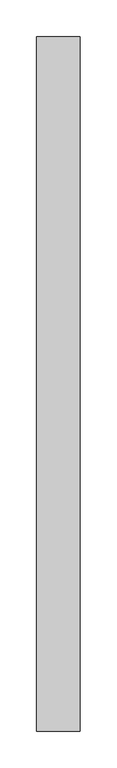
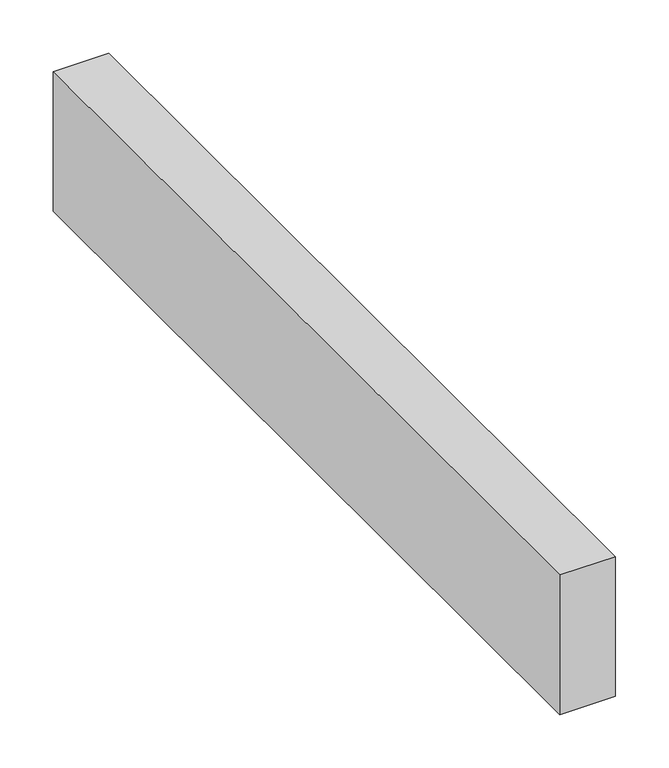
"""IFC4 building model written with IfcOpenShell, lengths in millimetres: proxy geometry, Modelos genéricos 108 : Modelos genéricos 9."""

from ifc_helpers import new_model, si_unit, frame, origin, place, context, project, spatial, polyline, outline, extrude, source, transform, mapped, element, save


def generic_models_7da0c3bd(model_context):
    return source(origin(), model_context, "Body", "SweptSolid", [
        extrude(outline(polyline([(5693.4472467, 2418.6238165), (5693.4472467, 1468.6238165), (5633.4472467, 1468.6238165), (5633.4472467, 2418.6238165), (5693.4472467, 2418.6238165)])), frame((0.0, 0.0, 3000.0), z_axis=(0.0, 0.0, 1.0), x_axis=(1.0, 0.0, 0.0)), (0.0, 0.0, 1.0), 160.0),
    ])


if __name__ == "__main__":
    model = new_model("IFC4")
    model_context = context("Model", 3, world=origin())
    ifc_project = project(units=[si_unit("LENGTHUNIT", "METRE", prefix="MILLI")], contexts=[model_context])
    site = spatial("IfcSite", under=ifc_project)
    building = spatial("IfcBuilding", under=site)
    placement = place(None, origin())
    generic_models_shape = generic_models_7da0c3bd(model_context)
    element("IfcBuildingElementProxy", 1, Name="Modelos genéricos 108 : Modelos genéricos 9", ObjectType="Modelos genéricos 108 : Modelos genéricos 9", at=placement, inside=building, context=model_context, shape_type="MappedRepresentation", body=[
        mapped(generic_models_shape, transform((0.0, 0.0, 0.0), x_axis=(1.0, 0.0, 0.0), y_axis=(0.0, 1.0, 0.0), z_axis=(0.0, 0.0, 1.0))),
    ])
    save(model, "model.ifc")
